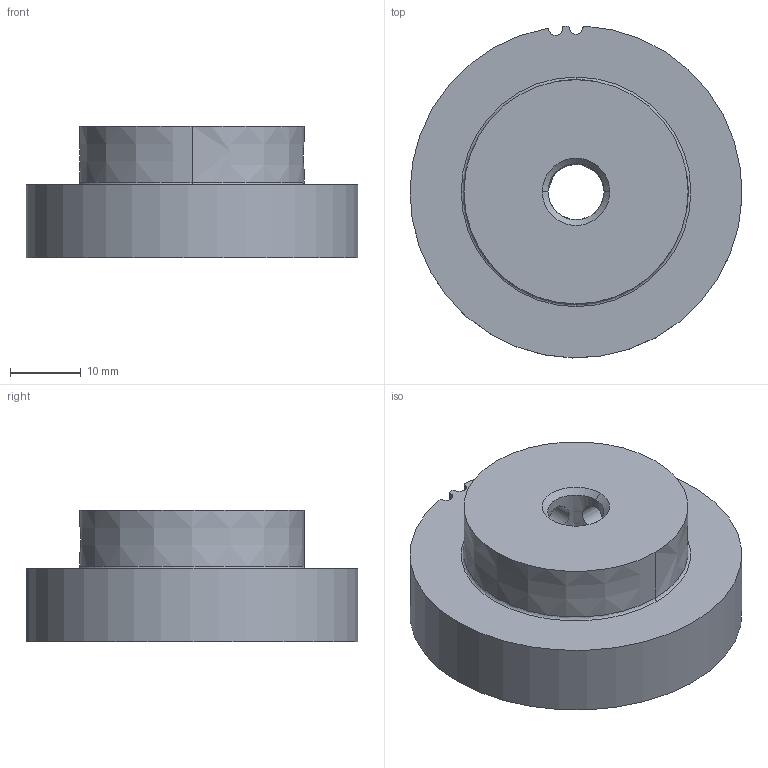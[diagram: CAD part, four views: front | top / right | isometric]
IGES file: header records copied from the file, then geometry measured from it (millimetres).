
Start section:  PTC IGES file: 44273.igs
Global section: file name: 44273.igs; native system: Pro/ENGINEER by Parametric Technology Corporation; preprocessor: 2001430; author: Administrator; organization: Unknown; date: 020621.121754; units: inch
Bounding box: 47.01 x 47 x 18.65 mm (x, y, z)
Surface area: 6439.9 mm2 (no closed solid volume)
Topology: 0 solids, 0 shells, 29 faces, 148 edges, 148 vertices
Faces by surface type: revolution 26, bspline 3
